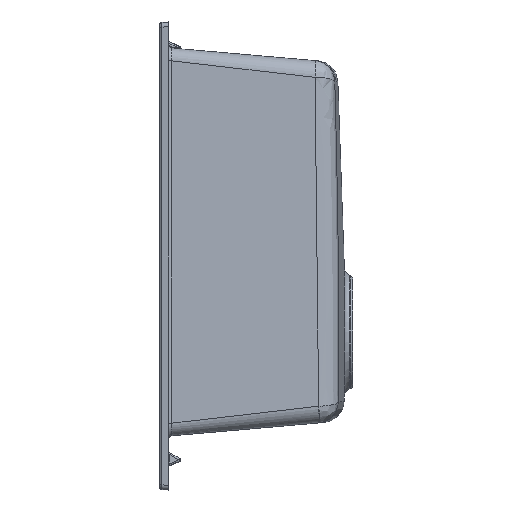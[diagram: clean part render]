
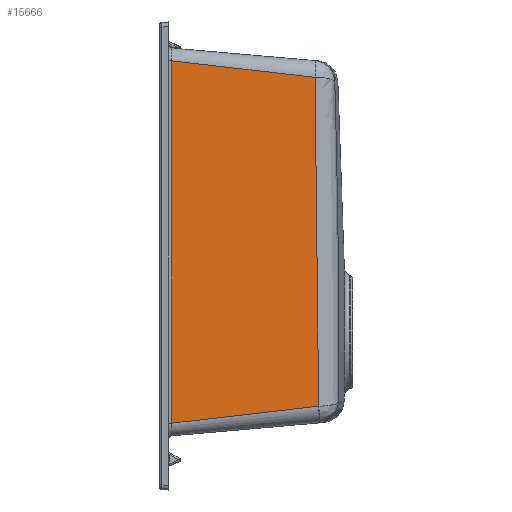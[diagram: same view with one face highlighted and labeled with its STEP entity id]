
A CAD part, left-side view. The second image highlights one B-rep face of the part: STEP entity #15666.
In plain terms, the highlighted planar face has unit normal (-0.996, -0.087, 0).
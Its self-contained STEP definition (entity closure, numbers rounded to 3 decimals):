
#387 = CARTESIAN_POINT ( 'NONE',  ( -263.384, -160.149, -160.453 ) ) ;
#523 = CARTESIAN_POINT ( 'NONE',  ( -272.632, -54.444, 201.819 ) ) ;
#893 = AXIS2_PLACEMENT_3D ( 'NONE', #21640, #4770, #16718 ) ;
#902 = PLANE ( 'NONE',  #893 ) ;
#929 = CARTESIAN_POINT ( 'NONE',  ( -263.374, -160.263, -160.441 ) ) ;
#1055 = CARTESIAN_POINT ( 'NONE',  ( -263.381, -160.187, -160.449 ) ) ;
#1228 = VERTEX_POINT ( 'NONE', #19050 ) ;
#1406 = CARTESIAN_POINT ( 'NONE',  ( -263.359, -160.436, -14.086 ) ) ;
#1951 = VERTEX_POINT ( 'NONE', #8876 ) ;
#2383 = VERTEX_POINT ( 'NONE', #387 ) ;
#3087 = CARTESIAN_POINT ( 'NONE',  ( -263.332, -160.738, -101.899 ) ) ;
#3285 = EDGE_CURVE ( 'NONE', #19500, #2383, #8263, .T. ) ;
#3473 = B_SPLINE_CURVE_WITH_KNOTS ( 'NONE', 3,
 ( #12416, #523, #14157, #3875 ),
 .UNSPECIFIED., .F., .F.,
 ( 4, 4 ),
 ( 0.013, 0.168 ),
 .UNSPECIFIED. ) ;
#3875 = CARTESIAN_POINT ( 'NONE',  ( -263.711, -156.415, 190.779 ) ) ;
#4699 = CARTESIAN_POINT ( 'NONE',  ( -263.711, -156.415, 190.779 ) ) ;
#4770 = DIRECTION ( 'NONE',  ( -0.996, -0.087, 0. ) ) ;
#4774 = CARTESIAN_POINT ( 'NONE',  ( -263.374, -160.263, -160.441 ) ) ;
#5272 = CARTESIAN_POINT ( 'NONE',  ( -272.523, -55.689, -171.718 ) ) ;
#5510 = ORIENTED_EDGE ( 'NONE', *, *, #16808, .F. ) ;
#7753 = CARTESIAN_POINT ( 'NONE',  ( -263.374, -160.263, -160.441 ) ) ;
#8144 = EDGE_CURVE ( 'NONE', #1228, #19500, #9780, .T. ) ;
#8263 = B_SPLINE_CURVE_WITH_KNOTS ( 'NONE', 3,
 ( #7753, #14645, #1055, #12965 ),
 .UNSPECIFIED., .F., .F.,
 ( 4, 4 ),
 ( 0., 0. ),
 .UNSPECIFIED. ) ;
#8876 = CARTESIAN_POINT ( 'NONE',  ( -277.083, -3.564, -178.566 ) ) ;
#9101 = B_SPLINE_CURVE_WITH_KNOTS ( 'NONE', 3,
 ( #13862, #18800, #5272, #17194 ),
 .UNSPECIFIED., .F., .F.,
 ( 4, 4 ),
 ( -0.172, -0.013 ),
 .UNSPECIFIED. ) ;
#9780 = B_SPLINE_CURVE_WITH_KNOTS ( 'NONE', 3,
 ( #4699, #14977, #9859, #21642, #11619, #1406, #13342, #3087, #15048, #4774 ),
 .UNSPECIFIED., .F., .F.,
 ( 4, 2, 2, 2, 4 ),
 ( 0., 0.088, 0.176, 0.263, 0.351 ),
 .UNSPECIFIED. ) ;
#9831 = EDGE_CURVE ( 'NONE', #13618, #1951, #13430, .T. ) ;
#9859 = CARTESIAN_POINT ( 'NONE',  ( -263.581, -157.896, 132.253 ) ) ;
#9918 = DIRECTION ( 'NONE',  ( 0., 0., -1. ) ) ;
#9974 = CARTESIAN_POINT ( 'NONE',  ( -277.083, -3.564, 208.553 ) ) ;
#11619 = CARTESIAN_POINT ( 'NONE',  ( -263.426, -159.673, 44.455 ) ) ;
#11669 = EDGE_LOOP ( 'NONE', ( #5510, #19656, #14097, #21638, #16791 ) ) ;
#12416 = CARTESIAN_POINT ( 'NONE',  ( -277.083, -3.564, 208.553 ) ) ;
#12965 = CARTESIAN_POINT ( 'NONE',  ( -263.384, -160.149, -160.453 ) ) ;
#13342 = CARTESIAN_POINT ( 'NONE',  ( -263.339, -160.665, -43.357 ) ) ;
#13430 = LINE ( 'NONE', #21633, #21768 ) ;
#13618 = VERTEX_POINT ( 'NONE', #9974 ) ;
#13862 = CARTESIAN_POINT ( 'NONE',  ( -263.384, -160.149, -160.453 ) ) ;
#14097 = ORIENTED_EDGE ( 'NONE', *, *, #15042, .F. ) ;
#14157 = CARTESIAN_POINT ( 'NONE',  ( -268.179, -105.338, 195.248 ) ) ;
#14645 = CARTESIAN_POINT ( 'NONE',  ( -263.377, -160.225, -160.445 ) ) ;
#14977 = CARTESIAN_POINT ( 'NONE',  ( -263.644, -157.182, 161.517 ) ) ;
#15042 = EDGE_CURVE ( 'NONE', #2383, #1951, #9101, .T. ) ;
#15048 = CARTESIAN_POINT ( 'NONE',  ( -263.346, -160.583, -131.17 ) ) ;
#15666 = ADVANCED_FACE ( 'NONE', ( #16199 ), #902, .T. ) ;
#16199 = FACE_OUTER_BOUND ( 'NONE', #11669, .T. ) ;
#16718 = DIRECTION ( 'NONE',  ( 0.087, -0.996, 0. ) ) ;
#16791 = ORIENTED_EDGE ( 'NONE', *, *, #8144, .F. ) ;
#16808 = EDGE_CURVE ( 'NONE', #13618, #1228, #3473, .T. ) ;
#17194 = CARTESIAN_POINT ( 'NONE',  ( -277.083, -3.564, -178.566 ) ) ;
#18800 = CARTESIAN_POINT ( 'NONE',  ( -267.962, -107.827, -165.03 ) ) ;
#19050 = CARTESIAN_POINT ( 'NONE',  ( -263.711, -156.415, 190.779 ) ) ;
#19500 = VERTEX_POINT ( 'NONE', #929 ) ;
#19656 = ORIENTED_EDGE ( 'NONE', *, *, #9831, .T. ) ;
#21633 = CARTESIAN_POINT ( 'NONE',  ( -277.083, -3.564, 215.24 ) ) ;
#21638 = ORIENTED_EDGE ( 'NONE', *, *, #3285, .F. ) ;
#21640 = CARTESIAN_POINT ( 'NONE',  ( -278.209, 9.303, 215.24 ) ) ;
#21642 = CARTESIAN_POINT ( 'NONE',  ( -263.472, -159.142, 73.722 ) ) ;
#21768 = VECTOR ( 'NONE', #9918, 1000. ) ;
